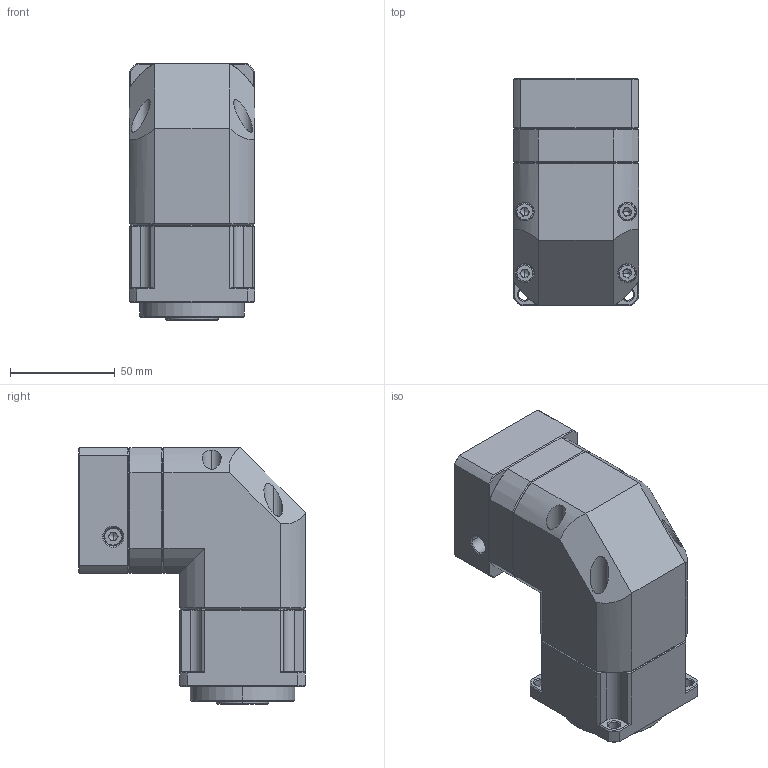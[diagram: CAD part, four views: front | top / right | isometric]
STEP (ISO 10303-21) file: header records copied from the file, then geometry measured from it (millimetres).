
FILE_DESCRIPTION (( 'STEP AP214' ), '1' );
FILE_NAME ('ZPBR060-K16-L1-P1-14-50-70-M4.STEP', '2024-05-03T15:07:20', ( 'Windows 蚚誧' ), ( 'Organization' ), 'SwSTEP 2.0', 'SolidWorks 2016', '' );
FILE_SCHEMA (( 'AUTOMOTIVE_DESIGN' ));
Length unit declared in the file: millimetre
Products named in the file (1): ZPBR060-K16-L1-P1-14-50-70-M4
Bounding box: 60 x 108.2 x 122.5 mm (x, y, z)
Volume: 482475.1 mm3; surface area: 64172.1 mm2
Topology: 1 solids, 33 shells, 1866 faces, 4958 edges, 3172 vertices
Faces by surface type: plane 1005, bspline 392, cone 252, cylinder 217
Entity records: 79133 total; most frequent: CARTESIAN_POINT 29873, ORIENTED_EDGE 9876, DIRECTION 7711, EDGE_CURVE 4938, LINE 3303, VECTOR 3303, VERTEX_POINT 3172, AXIS2_PLACEMENT_3D 2204
